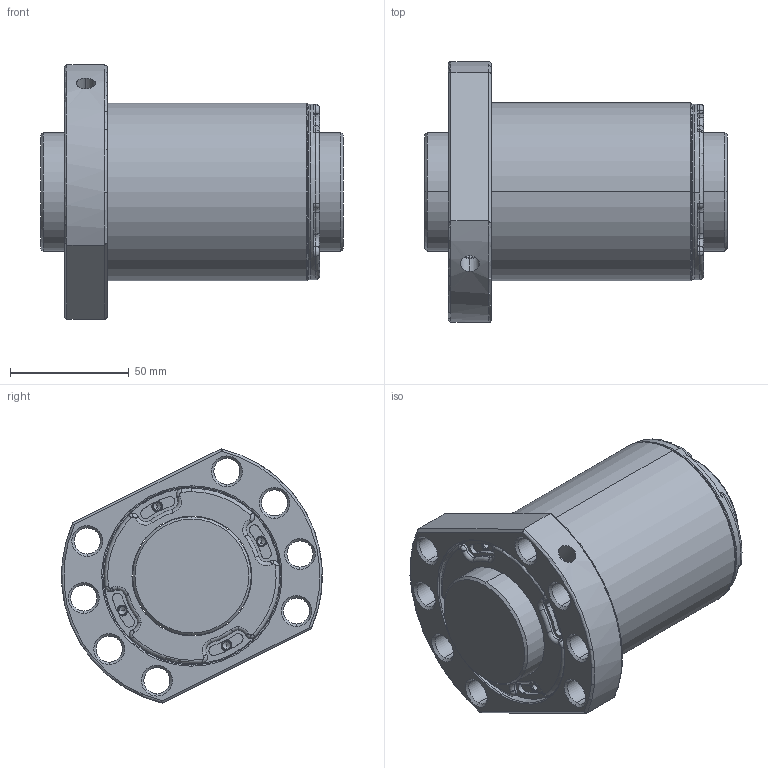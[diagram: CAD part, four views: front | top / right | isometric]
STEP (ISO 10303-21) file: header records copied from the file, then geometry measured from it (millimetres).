
FILE_DESCRIPTION (( 'STEP AP203' ), '1' );
FILE_NAME ('SFSR05020C1D-C.STEP', '2020-06-17T01:55:45', ( '' ), ( '' ), 'SwSTEP 2.0', 'SolidWorks 2013', '' );
FILE_SCHEMA (( 'CONFIG_CONTROL_DESIGN' ));
Length unit declared in the file: millimetre
Products named in the file (1): SFSR05020C1D-C
Bounding box: 127.5 x 109.9 x 107.22 mm (x, y, z)
Volume: 545199.1 mm3; surface area: 88205.4 mm2
Topology: 2 solids, 2 shells, 408 faces, 993 edges, 598 vertices
Faces by surface type: cylinder 180, plane 83, torus 77, cone 68
Entity records: 13083 total; most frequent: CARTESIAN_POINT 3087, DIRECTION 2352, ORIENTED_EDGE 1954, AXIS2_PLACEMENT_3D 1019, EDGE_CURVE 977, CIRCLE 610, VERTEX_POINT 598, EDGE_LOOP 453
